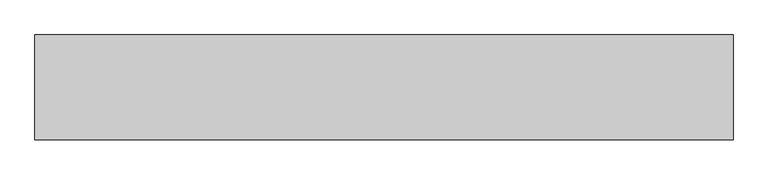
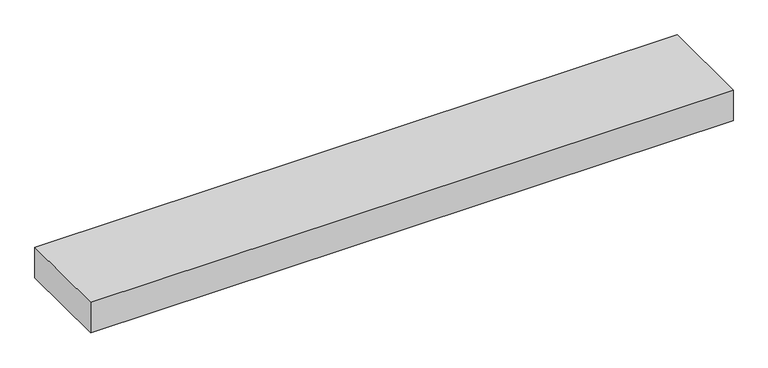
"""IFC4 building model written with IfcOpenShell, lengths in millimetres: light fixture geometry, GENILED_Светильник светодиодный_ЛПО Comfort : ЛПО Comfort 1200x180x60 45Вт Ra90 IP54 Опал."""

from ifc_helpers import new_model, si_unit, frame, origin, place, context, project, spatial, polyline, outline, extrude, faceted_brep, source, transform, mapped, element, save


def light_fixture_8640c246(model_context):
    return source(origin(), model_context, "Body", "SolidModel", [
        faceted_brep([(600.0, 90.0, 60.0), (-600.0, 90.0, 60.0), (-600.0, -90.0, 60.0), (600.0, -90.0, 60.0), (600.0, 90.0, 0.0), (600.0, -90.0, 0.0), (-600.0, -90.0, 0.0), (-600.0, 90.0, 0.0), (590.0, 80.0, 0.0), (-590.0, 80.0, 0.0), (-590.0, -80.0, 0.0), (590.0, -80.0, 0.0), (590.0, -80.0, 50.0), (590.0, 80.0, 50.0), (-590.0, -80.0, 50.0), (-590.0, 80.0, 50.0)], [[[0, 1, 2, 3]], [[4, 5, 6, 7], [8, 9, 10, 11]], [[1, 0, 4, 7]], [[2, 1, 7, 6]], [[3, 2, 6, 5]], [[0, 3, 5, 4]], [[8, 11, 12, 13]], [[11, 10, 14, 12]], [[10, 9, 15, 14]], [[9, 8, 13, 15]], [[13, 12, 14, 15]]]),
        extrude(outline(polyline([(590.0, 80.0), (590.0, -80.0), (-590.0, -80.0), (-590.0, 80.0), (590.0, 80.0)])), frame((0.0, 0.0, 5.0), z_axis=(0.0, 0.0, 1.0), x_axis=(1.0, 0.0, 0.0)), (0.0, 0.0, 1.0), 45.0),
    ])


if __name__ == "__main__":
    model = new_model("IFC4")
    model_context = context("Model", 3, world=origin())
    ifc_project = project(units=[si_unit("LENGTHUNIT", "METRE", prefix="MILLI")], contexts=[model_context])
    site = spatial("IfcSite", under=ifc_project)
    building = spatial("IfcBuilding", under=site)
    placement = place(None, origin())
    light_fixture_shape = light_fixture_8640c246(model_context)
    element("IfcLightFixture", 1, ObjectType="GENILED_Светильник светодиодный_ЛПО Comfort : ЛПО Comfort 1200x180x60 45Вт Ra90 IP54 Опал", at=placement, inside=building, context=model_context, shape_type="MappedRepresentation", body=[
        mapped(light_fixture_shape, transform((0.0, 0.0, 0.0), x_axis=(1.0, 0.0, 0.0), y_axis=(0.0, 1.0, 0.0), z_axis=(0.0, 0.0, 1.0))),
    ])
    save(model, "model.ifc")
